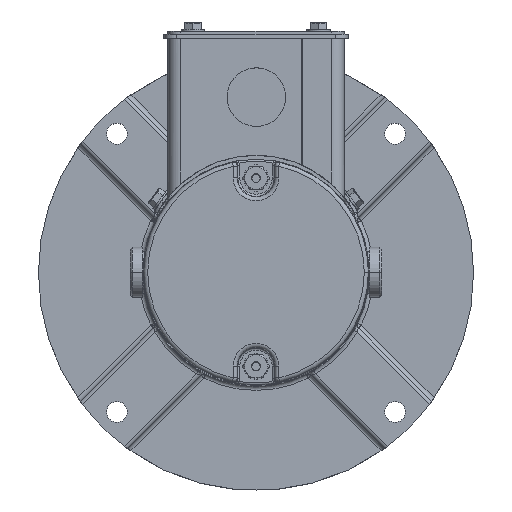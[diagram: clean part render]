
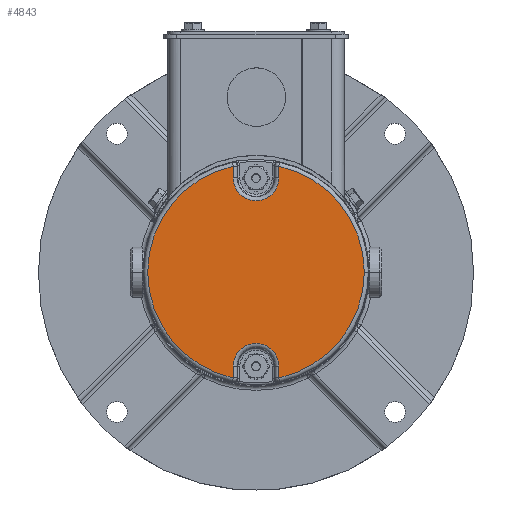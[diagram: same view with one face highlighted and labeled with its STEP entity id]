
A CAD part, top view. The second image highlights one B-rep face of the part: STEP entity #4843.
In plain terms, the highlighted planar face has unit normal (0, 0, 1).
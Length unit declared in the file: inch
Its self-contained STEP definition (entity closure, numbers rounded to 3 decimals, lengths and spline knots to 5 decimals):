
#890 = DIRECTION ( 'NONE',  ( 1., 0., 0. ) ) ;
#2316 = DIRECTION ( 'NONE',  ( 0., 0., 1. ) ) ;
#3355 = DIRECTION ( 'NONE',  ( 0., 1., 0. ) ) ;
#3858 = CARTESIAN_POINT ( 'NONE',  ( 0.34087, 1.5807, 8.9684 ) ) ;
#3897 = ORIENTED_EDGE ( 'NONE', *, *, #45446, .T. ) ;
#4843 = ADVANCED_FACE ( 'NONE', ( #56158 ), #55260, .T. ) ;
#5823 = VERTEX_POINT ( 'NONE', #8556 ) ;
#6056 = AXIS2_PLACEMENT_3D ( 'NONE', #23997, #2316, #34513 ) ;
#6512 = CARTESIAN_POINT ( 'NONE',  ( 0.34087, -1.406, 8.9684 ) ) ;
#6585 = VECTOR ( 'NONE', #25079, 39.37008 ) ;
#8556 = CARTESIAN_POINT ( 'NONE',  ( 0.34087, 1.406, 8.9684 ) ) ;
#9650 = EDGE_CURVE ( 'NONE', #31490, #10022, #26019, .T. ) ;
#10022 = VERTEX_POINT ( 'NONE', #19904 ) ;
#10576 = DIRECTION ( 'NONE',  ( 1., 0., 0. ) ) ;
#11404 = VERTEX_POINT ( 'NONE', #6512 ) ;
#12089 = CARTESIAN_POINT ( 'NONE',  ( -0.34087, -1.406, 8.9684 ) ) ;
#12297 = AXIS2_PLACEMENT_3D ( 'NONE', #32306, #58761, #48575 ) ;
#13396 = CARTESIAN_POINT ( 'NONE',  ( -0.34087, -1.406, 8.9684 ) ) ;
#13947 = ORIENTED_EDGE ( 'NONE', *, *, #17044, .T. ) ;
#14316 = CARTESIAN_POINT ( 'NONE',  ( -0.34087, 1.57811, 8.9684 ) ) ;
#14756 = CIRCLE ( 'NONE', #31144, 0.34087 ) ;
#15213 = CARTESIAN_POINT ( 'NONE',  ( 0.34087, -1.5807, 8.9684 ) ) ;
#17044 = EDGE_CURVE ( 'NONE', #5823, #24020, #14756, .T. ) ;
#18692 = DIRECTION ( 'NONE',  ( 0., 0., -1. ) ) ;
#19592 = CARTESIAN_POINT ( 'NONE',  ( 0.34087, 1.406, 8.9684 ) ) ;
#19904 = CARTESIAN_POINT ( 'NONE',  ( 1.61703, 0., 8.9684 ) ) ;
#20550 = VERTEX_POINT ( 'NONE', #65593 ) ;
#20727 = EDGE_CURVE ( 'NONE', #48058, #11404, #54702, .T. ) ;
#21243 = VERTEX_POINT ( 'NONE', #3858 ) ;
#21543 = DIRECTION ( 'NONE',  ( 0., 0., 1. ) ) ;
#23305 = EDGE_CURVE ( 'NONE', #20550, #41503, #50249, .T. ) ;
#23997 = CARTESIAN_POINT ( 'NONE',  ( 0., 0., 8.9684 ) ) ;
#24020 = VERTEX_POINT ( 'NONE', #35225 ) ;
#25079 = DIRECTION ( 'NONE',  ( 0., -1., 0. ) ) ;
#26019 = CIRCLE ( 'NONE', #6056, 1.61703 ) ;
#28583 = ORIENTED_EDGE ( 'NONE', *, *, #23305, .T. ) ;
#30418 = LINE ( 'NONE', #19592, #6585 ) ;
#30627 = EDGE_CURVE ( 'NONE', #41503, #48058, #56303, .T. ) ;
#31144 = AXIS2_PLACEMENT_3D ( 'NONE', #63702, #37995, #32962 ) ;
#31490 = VERTEX_POINT ( 'NONE', #15213 ) ;
#32306 = CARTESIAN_POINT ( 'NONE',  ( 0., 0., 8.9684 ) ) ;
#32962 = DIRECTION ( 'NONE',  ( 1., 0., 0. ) ) ;
#33564 = CARTESIAN_POINT ( 'NONE',  ( 0., 0., 8.9684 ) ) ;
#33820 = CARTESIAN_POINT ( 'NONE',  ( 0.34087, -1.57811, 8.9684 ) ) ;
#34513 = DIRECTION ( 'NONE',  ( 1., 0., 0. ) ) ;
#35225 = CARTESIAN_POINT ( 'NONE',  ( -0.34087, 1.406, 8.9684 ) ) ;
#37071 = CIRCLE ( 'NONE', #12297, 1.61703 ) ;
#37995 = DIRECTION ( 'NONE',  ( 0., 0., -1. ) ) ;
#38549 = ORIENTED_EDGE ( 'NONE', *, *, #52626, .T. ) ;
#39068 = DIRECTION ( 'NONE',  ( 0., 1., 0. ) ) ;
#39320 = VECTOR ( 'NONE', #39068, 39.37008 ) ;
#39624 = AXIS2_PLACEMENT_3D ( 'NONE', #33564, #55022, #890 ) ;
#39757 = LINE ( 'NONE', #14316, #67884 ) ;
#41503 = VERTEX_POINT ( 'NONE', #45947 ) ;
#43623 = ORIENTED_EDGE ( 'NONE', *, *, #9650, .T. ) ;
#45446 = EDGE_CURVE ( 'NONE', #11404, #31490, #46153, .T. ) ;
#45947 = CARTESIAN_POINT ( 'NONE',  ( -0.34087, -1.5807, 8.9684 ) ) ;
#46153 = LINE ( 'NONE', #33820, #59742 ) ;
#48058 = VERTEX_POINT ( 'NONE', #13396 ) ;
#48575 = DIRECTION ( 'NONE',  ( 1., 0., 0. ) ) ;
#50249 = CIRCLE ( 'NONE', #51377, 1.61703 ) ;
#50503 = DIRECTION ( 'NONE',  ( 0., -1., 0. ) ) ;
#51377 = AXIS2_PLACEMENT_3D ( 'NONE', #53743, #21543, #10576 ) ;
#51394 = CARTESIAN_POINT ( 'NONE',  ( 0., -1.406, 8.9684 ) ) ;
#52108 = DIRECTION ( 'NONE',  ( 1., 0., 0. ) ) ;
#52626 = EDGE_CURVE ( 'NONE', #10022, #21243, #37071, .T. ) ;
#53743 = CARTESIAN_POINT ( 'NONE',  ( 0., 0., 8.9684 ) ) ;
#54702 = CIRCLE ( 'NONE', #67362, 0.34087 ) ;
#55022 = DIRECTION ( 'NONE',  ( 0., 0., 1. ) ) ;
#55177 = EDGE_LOOP ( 'NONE', ( #13947, #66843, #28583, #59907, #61822, #3897, #43623, #38549, #63917 ) ) ;
#55260 = PLANE ( 'NONE',  #39624 ) ;
#56158 = FACE_OUTER_BOUND ( 'NONE', #55177, .T. ) ;
#56303 = LINE ( 'NONE', #12089, #39320 ) ;
#58761 = DIRECTION ( 'NONE',  ( 0., 0., 1. ) ) ;
#59363 = EDGE_CURVE ( 'NONE', #21243, #5823, #30418, .T. ) ;
#59742 = VECTOR ( 'NONE', #50503, 39.37008 ) ;
#59907 = ORIENTED_EDGE ( 'NONE', *, *, #30627, .T. ) ;
#61822 = ORIENTED_EDGE ( 'NONE', *, *, #20727, .T. ) ;
#63702 = CARTESIAN_POINT ( 'NONE',  ( 0., 1.406, 8.9684 ) ) ;
#63917 = ORIENTED_EDGE ( 'NONE', *, *, #59363, .T. ) ;
#65593 = CARTESIAN_POINT ( 'NONE',  ( -0.34087, 1.5807, 8.9684 ) ) ;
#66843 = ORIENTED_EDGE ( 'NONE', *, *, #68681, .T. ) ;
#67362 = AXIS2_PLACEMENT_3D ( 'NONE', #51394, #18692, #52108 ) ;
#67884 = VECTOR ( 'NONE', #3355, 39.37008 ) ;
#68681 = EDGE_CURVE ( 'NONE', #24020, #20550, #39757, .T. ) ;
